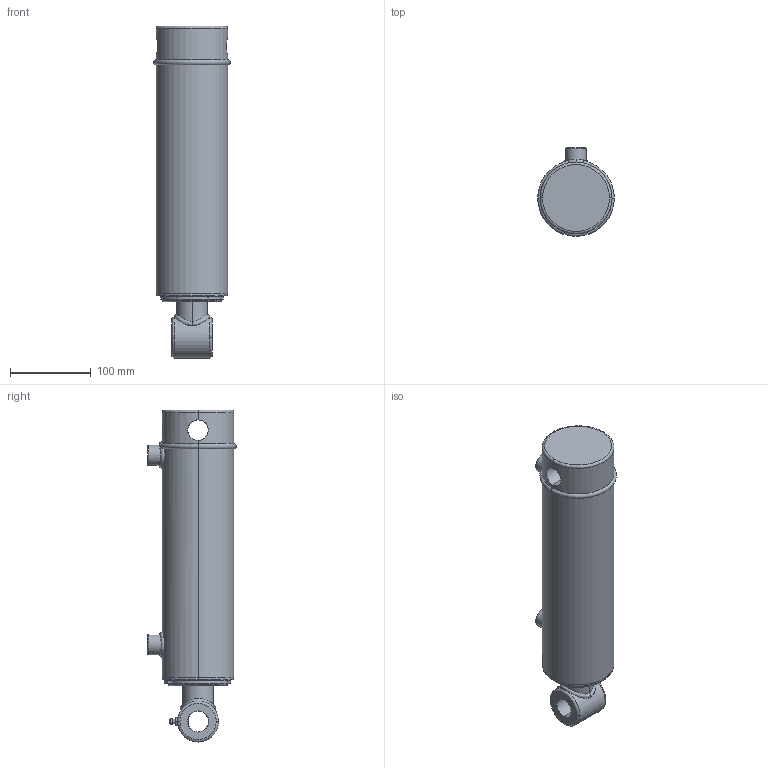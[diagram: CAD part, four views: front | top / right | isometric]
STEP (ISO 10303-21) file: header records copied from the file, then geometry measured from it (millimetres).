
FILE_DESCRIPTION (( 'STEP AP203' ), '1' );
FILE_NAME ('SB-C3001550x203 (8).STEP', '2014-11-19T21:03:29', ( '' ), ( '' ), 'SwSTEP 2.0', 'SolidWorks 2014', '' );
FILE_SCHEMA (( 'CONFIG_CONTROL_DESIGN' ));
Length unit declared in the file: millimetre
Products named in the file (7): SB-C3001550x203 (8) body; 8 SPARE; 18 NPT GREASE NIPPLE; SPARE 8; SB-C3001550x203 (8); SB-C300150x203 (8) BODY; 3 inch circlip
Assembly tree (6 placements, depth 3):
  SB-C3001550x203 (8)
    SB-C3001550x203 (8) body
      SB-C300150x203 (8) BODY
      3 inch circlip
    SPARE 8
      8 SPARE
      18 NPT GREASE NIPPLE
Bounding box: 94.9 x 109.9 x 411.4 mm (x, y, z)
Volume: 2199986.5 mm3; surface area: 204518.9 mm2
Topology: 4 solids, 4 shells, 133 faces, 306 edges, 190 vertices
Faces by surface type: cylinder 51, plane 29, cone 22, bspline 18, torus 11, sphere 2
Entity records: 10452 total; most frequent: CARTESIAN_POINT 6772, DIRECTION 638, ORIENTED_EDGE 604, EDGE_CURVE 302, AXIS2_PLACEMENT_3D 270, VERTEX_POINT 190, EDGE_LOOP 158, CIRCLE 144
